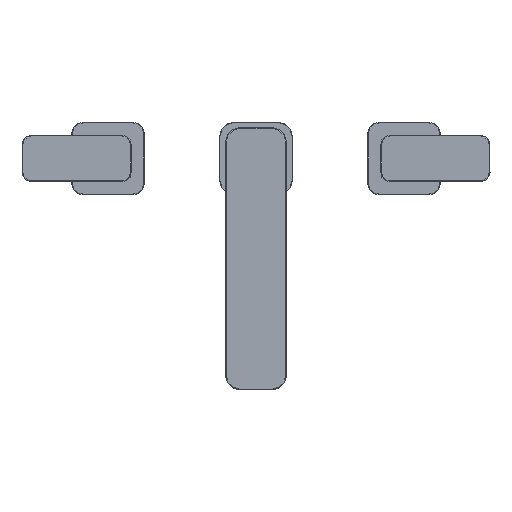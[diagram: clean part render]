
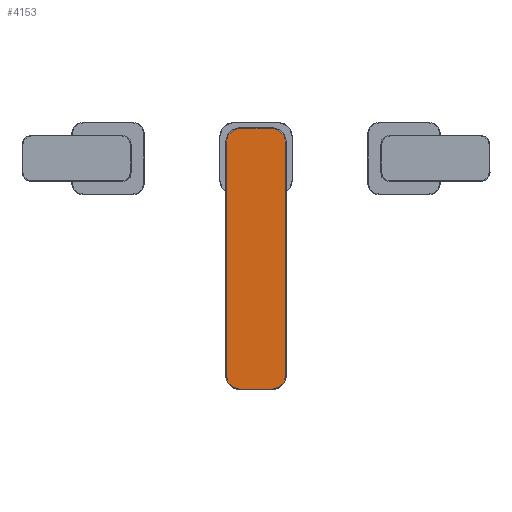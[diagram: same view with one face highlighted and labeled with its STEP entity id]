
A CAD part, top view. The second image highlights one B-rep face of the part: STEP entity #4153.
In plain terms, the highlighted planar face has unit normal (0, 0, 1).
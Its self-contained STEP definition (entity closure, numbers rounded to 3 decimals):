
#438=LINE('',#11446,#630);
#441=LINE('',#11458,#633);
#442=LINE('',#11462,#634);
#443=LINE('',#11466,#635);
#630=VECTOR('',#5683,22.);
#633=VECTOR('',#5698,160.);
#634=VECTOR('',#5703,160.);
#635=VECTOR('',#5706,22.);
#684=PLANE('',#4611);
#933=FACE_OUTER_BOUND('',#1191,.T.);
#1191=EDGE_LOOP('',(#3531,#3532,#3533,#3534,#3535,#3536,#3537,#3538));
#1445=CIRCLE('',#4600,9.5);
#1449=CIRCLE('',#4606,9.5);
#1452=CIRCLE('',#4612,9.5);
#1453=CIRCLE('',#4613,9.5);
#1812=VERTEX_POINT('',#11439);
#1813=VERTEX_POINT('',#11440);
#1814=VERTEX_POINT('',#11445);
#1815=VERTEX_POINT('',#11449);
#1817=VERTEX_POINT('',#11457);
#1818=VERTEX_POINT('',#11461);
#1819=VERTEX_POINT('',#11463);
#1820=VERTEX_POINT('',#11465);
#2385=EDGE_CURVE('',#1812,#1813,#1445,.T.);
#2388=EDGE_CURVE('',#1814,#1812,#438,.T.);
#2390=EDGE_CURVE('',#1815,#1814,#1449,.T.);
#2394=EDGE_CURVE('',#1817,#1815,#441,.T.);
#2396=EDGE_CURVE('',#1813,#1818,#442,.T.);
#2397=EDGE_CURVE('',#1818,#1819,#1452,.T.);
#2398=EDGE_CURVE('',#1819,#1820,#443,.T.);
#2399=EDGE_CURVE('',#1820,#1817,#1453,.T.);
#3531=ORIENTED_EDGE('',*,*,#2396,.T.);
#3532=ORIENTED_EDGE('',*,*,#2397,.T.);
#3533=ORIENTED_EDGE('',*,*,#2398,.T.);
#3534=ORIENTED_EDGE('',*,*,#2399,.T.);
#3535=ORIENTED_EDGE('',*,*,#2394,.T.);
#3536=ORIENTED_EDGE('',*,*,#2390,.T.);
#3537=ORIENTED_EDGE('',*,*,#2388,.T.);
#3538=ORIENTED_EDGE('',*,*,#2385,.T.);
#4153=ADVANCED_FACE('',(#933),#684,.T.);
#4600=AXIS2_PLACEMENT_3D('',#11441,#5675,#5676);
#4606=AXIS2_PLACEMENT_3D('',#11450,#5688,#5689);
#4611=AXIS2_PLACEMENT_3D('',#11460,#5701,#5702);
#4612=AXIS2_PLACEMENT_3D('',#11464,#5704,#5705);
#4613=AXIS2_PLACEMENT_3D('',#11467,#5707,#5708);
#5675=DIRECTION('center_axis',(0.,0.,
1.));
#5676=DIRECTION('ref_axis',(0.,1.,0.));
#5683=DIRECTION('',(-1.,0.,0.));
#5688=DIRECTION('center_axis',(0.,0.,
1.));
#5689=DIRECTION('ref_axis',(1.,0.,0.));
#5698=DIRECTION('',(0.,1.,0.));
#5701=DIRECTION('center_axis',(0.,0.,
1.));
#5702=DIRECTION('ref_axis',(-1.,0.,0.));
#5703=DIRECTION('',(0.,-1.,0.));
#5704=DIRECTION('center_axis',(0.,0.,
1.));
#5705=DIRECTION('ref_axis',(-1.,0.,0.));
#5706=DIRECTION('',(1.,0.,0.));
#5707=DIRECTION('center_axis',(0.,0.,
1.));
#5708=DIRECTION('ref_axis',(0.,-1.,0.));
#11439=CARTESIAN_POINT('',(-11.,20.5,135.95));
#11440=CARTESIAN_POINT('',(-20.5,11.,135.95));
#11441=CARTESIAN_POINT('Origin',(-11.,11.,135.95));
#11445=CARTESIAN_POINT('',(11.,20.5,135.95));
#11446=CARTESIAN_POINT('',(11.,20.5,135.95));
#11449=CARTESIAN_POINT('',(20.5,11.,135.95));
#11450=CARTESIAN_POINT('Origin',(11.,11.,135.95));
#11457=CARTESIAN_POINT('',(20.5,-149.,135.95));
#11458=CARTESIAN_POINT('',(20.5,-139.,135.95));
#11460=CARTESIAN_POINT('Origin',(-21.042,11.,135.95));
#11461=CARTESIAN_POINT('',(-20.5,-149.,135.95));
#11462=CARTESIAN_POINT('',(-20.5,1.,135.95));
#11463=CARTESIAN_POINT('',(-11.,-158.5,135.95));
#11464=CARTESIAN_POINT('Origin',(-11.,-149.,135.95));
#11465=CARTESIAN_POINT('',(11.,-158.5,135.95));
#11466=CARTESIAN_POINT('',(-11.,-158.5,135.95));
#11467=CARTESIAN_POINT('Origin',(11.,-149.,135.95));
